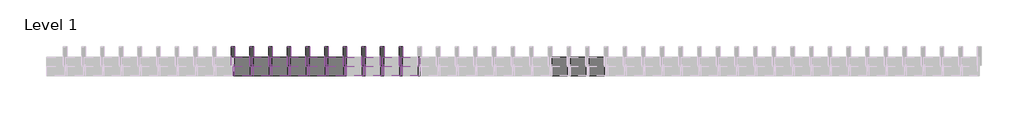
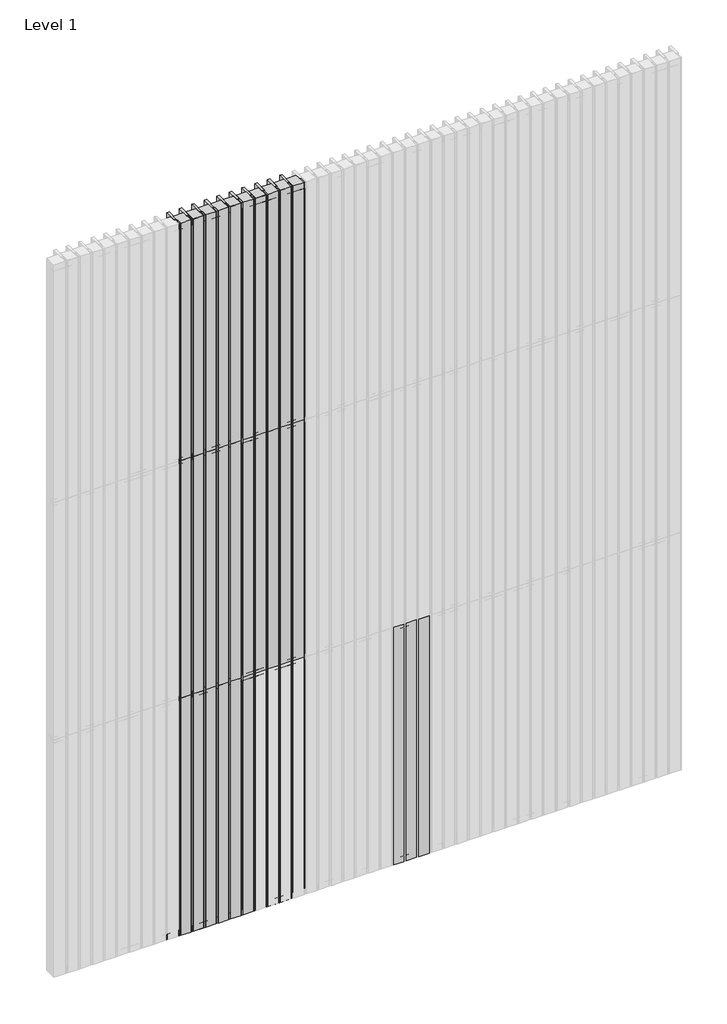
# One storey, part 2 of 6: 70 members, 59 plates.
"""IFC4 building model written with IfcOpenShell, lengths in millimetres."""

from ifc_helpers import new_model, si_unit, origin, place, context, project, spatial, transform, mapped, element, save
from components import rectangular_mullion_cddbc660, rectangular_mullion_a3e25429, rectangular_mullion_ae434dd9, rectangular_mullion_30cdfca6, empty_system_panel_empty_5411477d, empty_system_panel_empty_c50988b4, empty_system_panel_empty_3767e820

model = new_model("IFC4")

# Units and contexts
model_context = context("Model", 3, world=origin())
ifc_project = project(units=[si_unit("LENGTHUNIT", "METRE", prefix="MILLI")], contexts=[model_context])

# Site, building, storey
site = spatial("IfcSite", under=ifc_project)
building = spatial("IfcBuilding", under=site)
storey = spatial("IfcBuildingStorey", under=building, Name="Level 1", Elevation=0.0)

# Members
placement = place(None, origin())
rectangular_mullion_shape = rectangular_mullion_cddbc660(model_context)
element("IfcMember", 1, ObjectType="Rectangular Mullion : RSen_21_CWM_support profile 50x50 - left_gen_duco projects", at=placement, inside=storey, context=model_context, shape_type="MappedRepresentation", body=[
    mapped(rectangular_mullion_shape, transform((1900.0, 3000.0, 6000.0), x_axis=(0.0, 0.0, 1.0), y_axis=(0.0, 1.0, 0.0), z_axis=(-1.0, 0.0, 0.0))),
])
element("IfcMember", 2, ObjectType="Rectangular Mullion : RSen_21_CWM_support profile 50x50 - left_gen_duco projects", at=placement, inside=storey, context=model_context, shape_type="MappedRepresentation", body=[
    mapped(rectangular_mullion_shape, transform((1800.0, 3000.0, 6000.0), x_axis=(0.0, 0.0, 1.0), y_axis=(0.0, 1.0, 0.0), z_axis=(-1.0, 0.0, 0.0))),
])
element("IfcMember", 3, ObjectType="Rectangular Mullion : RSen_21_CWM_support profile 50x50 - left_gen_duco projects", at=placement, inside=storey, context=model_context, shape_type="MappedRepresentation", body=[
    mapped(rectangular_mullion_shape, transform((1700.0, 3000.0, 6000.0), x_axis=(0.0, 0.0, 1.0), y_axis=(0.0, 1.0, 0.0), z_axis=(-1.0, 0.0, 0.0))),
])
element("IfcMember", 4, ObjectType="Rectangular Mullion : RSen_21_CWM_support profile 50x50 - left_gen_duco projects", at=placement, inside=storey, context=model_context, shape_type="MappedRepresentation", body=[
    mapped(rectangular_mullion_shape, transform((1600.0, 3000.0, 6000.0), x_axis=(0.0, 0.0, 1.0), y_axis=(0.0, 1.0, 0.0), z_axis=(-1.0, 0.0, 0.0))),
])
element("IfcMember", 5, ObjectType="Rectangular Mullion : RSen_21_CWM_support profile 50x50 - left_gen_duco projects", at=placement, inside=storey, context=model_context, shape_type="MappedRepresentation", body=[
    mapped(rectangular_mullion_shape, transform((1500.0, 3000.0, 6000.0), x_axis=(0.0, 0.0, 1.0), y_axis=(0.0, 1.0, 0.0), z_axis=(-1.0, 0.0, 0.0))),
])
element("IfcMember", 6, ObjectType="Rectangular Mullion : RSen_21_CWM_support profile 50x50 - left_gen_duco projects", at=placement, inside=storey, context=model_context, shape_type="MappedRepresentation", body=[
    mapped(rectangular_mullion_shape, transform((1400.0, 3000.0, 6000.0), x_axis=(0.0, 0.0, 1.0), y_axis=(0.0, 1.0, 0.0), z_axis=(-1.0, 0.0, 0.0))),
])
element("IfcMember", 7, ObjectType="Rectangular Mullion : RSen_21_CWM_support profile 50x50 - left_gen_duco projects", at=placement, inside=storey, context=model_context, shape_type="MappedRepresentation", body=[
    mapped(rectangular_mullion_shape, transform((1300.0, 3000.0, 6000.0), x_axis=(0.0, 0.0, 1.0), y_axis=(0.0, 1.0, 0.0), z_axis=(-1.0, 0.0, 0.0))),
])
element("IfcMember", 8, ObjectType="Rectangular Mullion : RSen_21_CWM_support profile 50x50 - left_gen_duco projects", at=placement, inside=storey, context=model_context, shape_type="MappedRepresentation", body=[
    mapped(rectangular_mullion_shape, transform((1200.0, 3000.0, 6000.0), x_axis=(0.0, 0.0, 1.0), y_axis=(0.0, 1.0, 0.0), z_axis=(-1.0, 0.0, 0.0))),
])
element("IfcMember", 9, ObjectType="Rectangular Mullion : RSen_21_CWM_support profile 50x50 - left_gen_duco projects", at=placement, inside=storey, context=model_context, shape_type="MappedRepresentation", body=[
    mapped(rectangular_mullion_shape, transform((1100.0, 3000.0, 6000.0), x_axis=(0.0, 0.0, 1.0), y_axis=(0.0, 1.0, 0.0), z_axis=(-1.0, 0.0, 0.0))),
])
element("IfcMember", 10, ObjectType="Rectangular Mullion : RSen_21_CWM_support profile 50x50 - left_gen_duco projects", at=placement, inside=storey, context=model_context, shape_type="MappedRepresentation", body=[
    mapped(rectangular_mullion_shape, transform((1000.0, 3000.0, 6000.0), x_axis=(0.0, 0.0, 1.0), y_axis=(0.0, 1.0, 0.0), z_axis=(-1.0, 0.0, 0.0))),
])
rectangular_mullion_2_shape = rectangular_mullion_a3e25429(model_context)
element("IfcMember", 11, ObjectType="Rectangular Mullion : RSen_21_CWM_support profile 50x50 - right_gen_duco projects", at=placement, inside=storey, context=model_context, shape_type="MappedRepresentation", body=[
    mapped(rectangular_mullion_2_shape, transform((1900.0, 3000.0, 0.0), x_axis=(0.0, 0.0, -1.0), y_axis=(0.0, 1.0, 0.0), z_axis=(1.0, 0.0, 0.0))),
])
element("IfcMember", 12, ObjectType="Rectangular Mullion : RSen_21_CWM_support profile 50x50 - right_gen_duco projects", at=placement, inside=storey, context=model_context, shape_type="MappedRepresentation", body=[
    mapped(rectangular_mullion_2_shape, transform((1800.0, 3000.0, 0.0), x_axis=(0.0, 0.0, -1.0), y_axis=(0.0, 1.0, 0.0), z_axis=(1.0, 0.0, 0.0))),
])
element("IfcMember", 13, ObjectType="Rectangular Mullion : RSen_21_CWM_support profile 50x50 - right_gen_duco projects", at=placement, inside=storey, context=model_context, shape_type="MappedRepresentation", body=[
    mapped(rectangular_mullion_2_shape, transform((1700.0, 3000.0, 0.0), x_axis=(0.0, 0.0, -1.0), y_axis=(0.0, 1.0, 0.0), z_axis=(1.0, 0.0, 0.0))),
])
element("IfcMember", 14, ObjectType="Rectangular Mullion : RSen_21_CWM_support profile 50x50 - right_gen_duco projects", at=placement, inside=storey, context=model_context, shape_type="MappedRepresentation", body=[
    mapped(rectangular_mullion_2_shape, transform((1600.0, 3000.0, 0.0), x_axis=(0.0, 0.0, -1.0), y_axis=(0.0, 1.0, 0.0), z_axis=(1.0, 0.0, 0.0))),
])
element("IfcMember", 15, ObjectType="Rectangular Mullion : RSen_21_CWM_support profile 50x50 - right_gen_duco projects", at=placement, inside=storey, context=model_context, shape_type="MappedRepresentation", body=[
    mapped(rectangular_mullion_2_shape, transform((1500.0, 3000.0, 0.0), x_axis=(0.0, 0.0, -1.0), y_axis=(0.0, 1.0, 0.0), z_axis=(1.0, 0.0, 0.0))),
])
element("IfcMember", 16, ObjectType="Rectangular Mullion : RSen_21_CWM_support profile 50x50 - right_gen_duco projects", at=placement, inside=storey, context=model_context, shape_type="MappedRepresentation", body=[
    mapped(rectangular_mullion_2_shape, transform((1400.0, 3000.0, 0.0), x_axis=(0.0, 0.0, -1.0), y_axis=(0.0, 1.0, 0.0), z_axis=(1.0, 0.0, 0.0))),
])
element("IfcMember", 17, ObjectType="Rectangular Mullion : RSen_21_CWM_support profile 50x50 - right_gen_duco projects", at=placement, inside=storey, context=model_context, shape_type="MappedRepresentation", body=[
    mapped(rectangular_mullion_2_shape, transform((1300.0, 3000.0, 0.0), x_axis=(0.0, 0.0, -1.0), y_axis=(0.0, 1.0, 0.0), z_axis=(1.0, 0.0, 0.0))),
])
element("IfcMember", 18, ObjectType="Rectangular Mullion : RSen_21_CWM_support profile 50x50 - right_gen_duco projects", at=placement, inside=storey, context=model_context, shape_type="MappedRepresentation", body=[
    mapped(rectangular_mullion_2_shape, transform((1200.0, 3000.0, 0.0), x_axis=(0.0, 0.0, -1.0), y_axis=(0.0, 1.0, 0.0), z_axis=(1.0, 0.0, 0.0))),
])
element("IfcMember", 19, ObjectType="Rectangular Mullion : RSen_21_CWM_support profile 50x50 - right_gen_duco projects", at=placement, inside=storey, context=model_context, shape_type="MappedRepresentation", body=[
    mapped(rectangular_mullion_2_shape, transform((1100.0, 3000.0, 0.0), x_axis=(0.0, 0.0, -1.0), y_axis=(0.0, 1.0, 0.0), z_axis=(1.0, 0.0, 0.0))),
])
element("IfcMember", 20, ObjectType="Rectangular Mullion : RSen_21_CWM_support profile 50x50 - right_gen_duco projects", at=placement, inside=storey, context=model_context, shape_type="MappedRepresentation", body=[
    mapped(rectangular_mullion_2_shape, transform((1000.0, 3000.0, 0.0), x_axis=(0.0, 0.0, -1.0), y_axis=(0.0, 1.0, 0.0), z_axis=(1.0, 0.0, 0.0))),
])
rectangular_mullion_3_shape = rectangular_mullion_ae434dd9(model_context)
element("IfcMember", 21, ObjectType="Rectangular Mullion : RSen_21_CWM_support profile 50x50_gen_duco projects", at=placement, inside=storey, context=model_context, shape_type="MappedRepresentation", body=[
    mapped(rectangular_mullion_3_shape, transform((1900.0, 3000.0, 2000.0), x_axis=(0.0, 0.0, 1.0), y_axis=(0.0, 1.0, 0.0), z_axis=(-1.0, 0.0, 0.0))),
])
element("IfcMember", 22, ObjectType="Rectangular Mullion : RSen_21_CWM_support profile 50x50_gen_duco projects", at=placement, inside=storey, context=model_context, shape_type="MappedRepresentation", body=[
    mapped(rectangular_mullion_3_shape, transform((1800.0, 3000.0, 2000.0), x_axis=(0.0, 0.0, 1.0), y_axis=(0.0, 1.0, 0.0), z_axis=(-1.0, 0.0, 0.0))),
])
element("IfcMember", 23, ObjectType="Rectangular Mullion : RSen_21_CWM_support profile 50x50_gen_duco projects", at=placement, inside=storey, context=model_context, shape_type="MappedRepresentation", body=[
    mapped(rectangular_mullion_3_shape, transform((1700.0, 3000.0, 2000.0), x_axis=(0.0, 0.0, 1.0), y_axis=(0.0, 1.0, 0.0), z_axis=(-1.0, 0.0, 0.0))),
])
element("IfcMember", 24, ObjectType="Rectangular Mullion : RSen_21_CWM_support profile 50x50_gen_duco projects", at=placement, inside=storey, context=model_context, shape_type="MappedRepresentation", body=[
    mapped(rectangular_mullion_3_shape, transform((1600.0, 3000.0, 2000.0), x_axis=(0.0, 0.0, 1.0), y_axis=(0.0, 1.0, 0.0), z_axis=(-1.0, 0.0, 0.0))),
])
element("IfcMember", 25, ObjectType="Rectangular Mullion : RSen_21_CWM_support profile 50x50_gen_duco projects", at=placement, inside=storey, context=model_context, shape_type="MappedRepresentation", body=[
    mapped(rectangular_mullion_3_shape, transform((1500.0, 3000.0, 2000.0), x_axis=(0.0, 0.0, 1.0), y_axis=(0.0, 1.0, 0.0), z_axis=(-1.0, 0.0, 0.0))),
])
element("IfcMember", 26, ObjectType="Rectangular Mullion : RSen_21_CWM_support profile 50x50_gen_duco projects", at=placement, inside=storey, context=model_context, shape_type="MappedRepresentation", body=[
    mapped(rectangular_mullion_3_shape, transform((1400.0, 3000.0, 2000.0), x_axis=(0.0, 0.0, 1.0), y_axis=(0.0, 1.0, 0.0), z_axis=(-1.0, 0.0, 0.0))),
])
element("IfcMember", 27, ObjectType="Rectangular Mullion : RSen_21_CWM_support profile 50x50_gen_duco projects", at=placement, inside=storey, context=model_context, shape_type="MappedRepresentation", body=[
    mapped(rectangular_mullion_3_shape, transform((1300.0, 3000.0, 2000.0), x_axis=(0.0, 0.0, 1.0), y_axis=(0.0, 1.0, 0.0), z_axis=(-1.0, 0.0, 0.0))),
])
element("IfcMember", 28, ObjectType="Rectangular Mullion : RSen_21_CWM_support profile 50x50_gen_duco projects", at=placement, inside=storey, context=model_context, shape_type="MappedRepresentation", body=[
    mapped(rectangular_mullion_3_shape, transform((1200.0, 3000.0, 2000.0), x_axis=(0.0, 0.0, 1.0), y_axis=(0.0, 1.0, 0.0), z_axis=(-1.0, 0.0, 0.0))),
])
element("IfcMember", 29, ObjectType="Rectangular Mullion : RSen_21_CWM_support profile 50x50_gen_duco projects", at=placement, inside=storey, context=model_context, shape_type="MappedRepresentation", body=[
    mapped(rectangular_mullion_3_shape, transform((1100.0, 3000.0, 2000.0), x_axis=(0.0, 0.0, 1.0), y_axis=(0.0, 1.0, 0.0), z_axis=(-1.0, 0.0, 0.0))),
])
element("IfcMember", 30, ObjectType="Rectangular Mullion : RSen_21_CWM_support profile 50x50_gen_duco projects", at=placement, inside=storey, context=model_context, shape_type="MappedRepresentation", body=[
    mapped(rectangular_mullion_3_shape, transform((1000.0, 3000.0, 2000.0), x_axis=(0.0, 0.0, 1.0), y_axis=(0.0, 1.0, 0.0), z_axis=(-1.0, 0.0, 0.0))),
])
element("IfcMember", 31, ObjectType="Rectangular Mullion : RSen_21_CWM_support profile 50x50_gen_duco projects", at=placement, inside=storey, context=model_context, shape_type="MappedRepresentation", body=[
    mapped(rectangular_mullion_3_shape, transform((1900.0, 3000.0, 4000.0), x_axis=(0.0, 0.0, 1.0), y_axis=(0.0, 1.0, 0.0), z_axis=(-1.0, 0.0, 0.0))),
])
element("IfcMember", 32, ObjectType="Rectangular Mullion : RSen_21_CWM_support profile 50x50_gen_duco projects", at=placement, inside=storey, context=model_context, shape_type="MappedRepresentation", body=[
    mapped(rectangular_mullion_3_shape, transform((1800.0, 3000.0, 4000.0), x_axis=(0.0, 0.0, 1.0), y_axis=(0.0, 1.0, 0.0), z_axis=(-1.0, 0.0, 0.0))),
])
element("IfcMember", 33, ObjectType="Rectangular Mullion : RSen_21_CWM_support profile 50x50_gen_duco projects", at=placement, inside=storey, context=model_context, shape_type="MappedRepresentation", body=[
    mapped(rectangular_mullion_3_shape, transform((1700.0, 3000.0, 4000.0), x_axis=(0.0, 0.0, 1.0), y_axis=(0.0, 1.0, 0.0), z_axis=(-1.0, 0.0, 0.0))),
])
element("IfcMember", 34, ObjectType="Rectangular Mullion : RSen_21_CWM_support profile 50x50_gen_duco projects", at=placement, inside=storey, context=model_context, shape_type="MappedRepresentation", body=[
    mapped(rectangular_mullion_3_shape, transform((1600.0, 3000.0, 4000.0), x_axis=(0.0, 0.0, 1.0), y_axis=(0.0, 1.0, 0.0), z_axis=(-1.0, 0.0, 0.0))),
])
element("IfcMember", 35, ObjectType="Rectangular Mullion : RSen_21_CWM_support profile 50x50_gen_duco projects", at=placement, inside=storey, context=model_context, shape_type="MappedRepresentation", body=[
    mapped(rectangular_mullion_3_shape, transform((1500.0, 3000.0, 4000.0), x_axis=(0.0, 0.0, 1.0), y_axis=(0.0, 1.0, 0.0), z_axis=(-1.0, 0.0, 0.0))),
])
element("IfcMember", 36, ObjectType="Rectangular Mullion : RSen_21_CWM_support profile 50x50_gen_duco projects", at=placement, inside=storey, context=model_context, shape_type="MappedRepresentation", body=[
    mapped(rectangular_mullion_3_shape, transform((1400.0, 3000.0, 4000.0), x_axis=(0.0, 0.0, 1.0), y_axis=(0.0, 1.0, 0.0), z_axis=(-1.0, 0.0, 0.0))),
])
element("IfcMember", 37, ObjectType="Rectangular Mullion : RSen_21_CWM_support profile 50x50_gen_duco projects", at=placement, inside=storey, context=model_context, shape_type="MappedRepresentation", body=[
    mapped(rectangular_mullion_3_shape, transform((1300.0, 3000.0, 4000.0), x_axis=(0.0, 0.0, 1.0), y_axis=(0.0, 1.0, 0.0), z_axis=(-1.0, 0.0, 0.0))),
])
element("IfcMember", 38, ObjectType="Rectangular Mullion : RSen_21_CWM_support profile 50x50_gen_duco projects", at=placement, inside=storey, context=model_context, shape_type="MappedRepresentation", body=[
    mapped(rectangular_mullion_3_shape, transform((1200.0, 3000.0, 4000.0), x_axis=(0.0, 0.0, 1.0), y_axis=(0.0, 1.0, 0.0), z_axis=(-1.0, 0.0, 0.0))),
])
element("IfcMember", 39, ObjectType="Rectangular Mullion : RSen_21_CWM_support profile 50x50_gen_duco projects", at=placement, inside=storey, context=model_context, shape_type="MappedRepresentation", body=[
    mapped(rectangular_mullion_3_shape, transform((1100.0, 3000.0, 4000.0), x_axis=(0.0, 0.0, 1.0), y_axis=(0.0, 1.0, 0.0), z_axis=(-1.0, 0.0, 0.0))),
])
element("IfcMember", 40, ObjectType="Rectangular Mullion : RSen_21_CWM_support profile 50x50_gen_duco projects", at=placement, inside=storey, context=model_context, shape_type="MappedRepresentation", body=[
    mapped(rectangular_mullion_3_shape, transform((1000.0, 3000.0, 4000.0), x_axis=(0.0, 0.0, 1.0), y_axis=(0.0, 1.0, 0.0), z_axis=(-1.0, 0.0, 0.0))),
])
rectangular_mullion_4_shape = rectangular_mullion_30cdfca6(model_context)
element("IfcMember", 41, ObjectType="Rectangular Mullion : RSen_21_CWM_blade - cubic 100 - 0°_gen_duco projects", at=placement, inside=storey, context=model_context, shape_type="MappedRepresentation", body=[
    mapped(rectangular_mullion_4_shape, transform((1900.0, 3000.0, 0.0), x_axis=(-1.0, 0.0, 0.0), y_axis=(0.0, 1.0, 0.0), z_axis=(0.0, 0.0, -1.0))),
])
element("IfcMember", 42, ObjectType="Rectangular Mullion : RSen_21_CWM_blade - cubic 100 - 0°_gen_duco projects", at=placement, inside=storey, context=model_context, shape_type="MappedRepresentation", body=[
    mapped(rectangular_mullion_4_shape, transform((1800.0, 3000.0, 0.0), x_axis=(-1.0, 0.0, 0.0), y_axis=(0.0, 1.0, 0.0), z_axis=(0.0, 0.0, -1.0))),
])
element("IfcMember", 43, ObjectType="Rectangular Mullion : RSen_21_CWM_blade - cubic 100 - 0°_gen_duco projects", at=placement, inside=storey, context=model_context, shape_type="MappedRepresentation", body=[
    mapped(rectangular_mullion_4_shape, transform((1700.0, 3000.0, 0.0), x_axis=(-1.0, 0.0, 0.0), y_axis=(0.0, 1.0, 0.0), z_axis=(0.0, 0.0, -1.0))),
])
element("IfcMember", 44, ObjectType="Rectangular Mullion : RSen_21_CWM_blade - cubic 100 - 0°_gen_duco projects", at=placement, inside=storey, context=model_context, shape_type="MappedRepresentation", body=[
    mapped(rectangular_mullion_4_shape, transform((1600.0, 3000.0, 0.0), x_axis=(-1.0, 0.0, 0.0), y_axis=(0.0, 1.0, 0.0), z_axis=(0.0, 0.0, -1.0))),
])
element("IfcMember", 45, ObjectType="Rectangular Mullion : RSen_21_CWM_blade - cubic 100 - 0°_gen_duco projects", at=placement, inside=storey, context=model_context, shape_type="MappedRepresentation", body=[
    mapped(rectangular_mullion_4_shape, transform((1500.0, 3000.0, 0.0), x_axis=(-1.0, 0.0, 0.0), y_axis=(0.0, 1.0, 0.0), z_axis=(0.0, 0.0, -1.0))),
])
element("IfcMember", 46, ObjectType="Rectangular Mullion : RSen_21_CWM_blade - cubic 100 - 0°_gen_duco projects", at=placement, inside=storey, context=model_context, shape_type="MappedRepresentation", body=[
    mapped(rectangular_mullion_4_shape, transform((1400.0, 3000.0, 0.0), x_axis=(-1.0, 0.0, 0.0), y_axis=(0.0, 1.0, 0.0), z_axis=(0.0, 0.0, -1.0))),
])
element("IfcMember", 47, ObjectType="Rectangular Mullion : RSen_21_CWM_blade - cubic 100 - 0°_gen_duco projects", at=placement, inside=storey, context=model_context, shape_type="MappedRepresentation", body=[
    mapped(rectangular_mullion_4_shape, transform((1300.0, 3000.0, 0.0), x_axis=(-1.0, 0.0, 0.0), y_axis=(0.0, 1.0, 0.0), z_axis=(0.0, 0.0, -1.0))),
])
element("IfcMember", 48, ObjectType="Rectangular Mullion : RSen_21_CWM_blade - cubic 100 - 0°_gen_duco projects", at=placement, inside=storey, context=model_context, shape_type="MappedRepresentation", body=[
    mapped(rectangular_mullion_4_shape, transform((1200.0, 3000.0, 0.0), x_axis=(-1.0, 0.0, 0.0), y_axis=(0.0, 1.0, 0.0), z_axis=(0.0, 0.0, -1.0))),
])
element("IfcMember", 49, ObjectType="Rectangular Mullion : RSen_21_CWM_blade - cubic 100 - 0°_gen_duco projects", at=placement, inside=storey, context=model_context, shape_type="MappedRepresentation", body=[
    mapped(rectangular_mullion_4_shape, transform((1100.0, 3000.0, 0.0), x_axis=(-1.0, 0.0, 0.0), y_axis=(0.0, 1.0, 0.0), z_axis=(0.0, 0.0, -1.0))),
])
element("IfcMember", 50, ObjectType="Rectangular Mullion : RSen_21_CWM_blade - cubic 100 - 0°_gen_duco projects", at=placement, inside=storey, context=model_context, shape_type="MappedRepresentation", body=[
    mapped(rectangular_mullion_4_shape, transform((1000.0, 3000.0, 0.0), x_axis=(-1.0, 0.0, 0.0), y_axis=(0.0, 1.0, 0.0), z_axis=(0.0, 0.0, -1.0))),
])
element("IfcMember", 51, ObjectType="Rectangular Mullion : RSen_21_CWM_blade - cubic 100 - 0°_gen_duco projects", at=placement, inside=storey, context=model_context, shape_type="MappedRepresentation", body=[
    mapped(rectangular_mullion_4_shape, transform((1900.0, 3000.0, 2000.0), x_axis=(-1.0, 0.0, 0.0), y_axis=(0.0, 1.0, 0.0), z_axis=(0.0, 0.0, -1.0))),
])
element("IfcMember", 52, ObjectType="Rectangular Mullion : RSen_21_CWM_blade - cubic 100 - 0°_gen_duco projects", at=placement, inside=storey, context=model_context, shape_type="MappedRepresentation", body=[
    mapped(rectangular_mullion_4_shape, transform((1800.0, 3000.0, 2000.0), x_axis=(-1.0, 0.0, 0.0), y_axis=(0.0, 1.0, 0.0), z_axis=(0.0, 0.0, -1.0))),
])
element("IfcMember", 53, ObjectType="Rectangular Mullion : RSen_21_CWM_blade - cubic 100 - 0°_gen_duco projects", at=placement, inside=storey, context=model_context, shape_type="MappedRepresentation", body=[
    mapped(rectangular_mullion_4_shape, transform((1700.0, 3000.0, 2000.0), x_axis=(-1.0, 0.0, 0.0), y_axis=(0.0, 1.0, 0.0), z_axis=(0.0, 0.0, -1.0))),
])
element("IfcMember", 54, ObjectType="Rectangular Mullion : RSen_21_CWM_blade - cubic 100 - 0°_gen_duco projects", at=placement, inside=storey, context=model_context, shape_type="MappedRepresentation", body=[
    mapped(rectangular_mullion_4_shape, transform((1600.0, 3000.0, 2000.0), x_axis=(-1.0, 0.0, 0.0), y_axis=(0.0, 1.0, 0.0), z_axis=(0.0, 0.0, -1.0))),
])
element("IfcMember", 55, ObjectType="Rectangular Mullion : RSen_21_CWM_blade - cubic 100 - 0°_gen_duco projects", at=placement, inside=storey, context=model_context, shape_type="MappedRepresentation", body=[
    mapped(rectangular_mullion_4_shape, transform((1500.0, 3000.0, 2000.0), x_axis=(-1.0, 0.0, 0.0), y_axis=(0.0, 1.0, 0.0), z_axis=(0.0, 0.0, -1.0))),
])
element("IfcMember", 56, ObjectType="Rectangular Mullion : RSen_21_CWM_blade - cubic 100 - 0°_gen_duco projects", at=placement, inside=storey, context=model_context, shape_type="MappedRepresentation", body=[
    mapped(rectangular_mullion_4_shape, transform((1400.0, 3000.0, 2000.0), x_axis=(-1.0, 0.0, 0.0), y_axis=(0.0, 1.0, 0.0), z_axis=(0.0, 0.0, -1.0))),
])
element("IfcMember", 57, ObjectType="Rectangular Mullion : RSen_21_CWM_blade - cubic 100 - 0°_gen_duco projects", at=placement, inside=storey, context=model_context, shape_type="MappedRepresentation", body=[
    mapped(rectangular_mullion_4_shape, transform((1300.0, 3000.0, 2000.0), x_axis=(-1.0, 0.0, 0.0), y_axis=(0.0, 1.0, 0.0), z_axis=(0.0, 0.0, -1.0))),
])
element("IfcMember", 58, ObjectType="Rectangular Mullion : RSen_21_CWM_blade - cubic 100 - 0°_gen_duco projects", at=placement, inside=storey, context=model_context, shape_type="MappedRepresentation", body=[
    mapped(rectangular_mullion_4_shape, transform((1200.0, 3000.0, 2000.0), x_axis=(-1.0, 0.0, 0.0), y_axis=(0.0, 1.0, 0.0), z_axis=(0.0, 0.0, -1.0))),
])
element("IfcMember", 59, ObjectType="Rectangular Mullion : RSen_21_CWM_blade - cubic 100 - 0°_gen_duco projects", at=placement, inside=storey, context=model_context, shape_type="MappedRepresentation", body=[
    mapped(rectangular_mullion_4_shape, transform((1100.0, 3000.0, 2000.0), x_axis=(-1.0, 0.0, 0.0), y_axis=(0.0, 1.0, 0.0), z_axis=(0.0, 0.0, -1.0))),
])
element("IfcMember", 60, ObjectType="Rectangular Mullion : RSen_21_CWM_blade - cubic 100 - 0°_gen_duco projects", at=placement, inside=storey, context=model_context, shape_type="MappedRepresentation", body=[
    mapped(rectangular_mullion_4_shape, transform((1000.0, 3000.0, 2000.0), x_axis=(-1.0, 0.0, 0.0), y_axis=(0.0, 1.0, 0.0), z_axis=(0.0, 0.0, -1.0))),
])
element("IfcMember", 61, ObjectType="Rectangular Mullion : RSen_21_CWM_blade - cubic 100 - 0°_gen_duco projects", at=placement, inside=storey, context=model_context, shape_type="MappedRepresentation", body=[
    mapped(rectangular_mullion_4_shape, transform((1900.0, 3000.0, 4000.0), x_axis=(-1.0, 0.0, 0.0), y_axis=(0.0, 1.0, 0.0), z_axis=(0.0, 0.0, -1.0))),
])
element("IfcMember", 62, ObjectType="Rectangular Mullion : RSen_21_CWM_blade - cubic 100 - 0°_gen_duco projects", at=placement, inside=storey, context=model_context, shape_type="MappedRepresentation", body=[
    mapped(rectangular_mullion_4_shape, transform((1800.0, 3000.0, 4000.0), x_axis=(-1.0, 0.0, 0.0), y_axis=(0.0, 1.0, 0.0), z_axis=(0.0, 0.0, -1.0))),
])
element("IfcMember", 63, ObjectType="Rectangular Mullion : RSen_21_CWM_blade - cubic 100 - 0°_gen_duco projects", at=placement, inside=storey, context=model_context, shape_type="MappedRepresentation", body=[
    mapped(rectangular_mullion_4_shape, transform((1700.0, 3000.0, 4000.0), x_axis=(-1.0, 0.0, 0.0), y_axis=(0.0, 1.0, 0.0), z_axis=(0.0, 0.0, -1.0))),
])
element("IfcMember", 64, ObjectType="Rectangular Mullion : RSen_21_CWM_blade - cubic 100 - 0°_gen_duco projects", at=placement, inside=storey, context=model_context, shape_type="MappedRepresentation", body=[
    mapped(rectangular_mullion_4_shape, transform((1600.0, 3000.0, 4000.0), x_axis=(-1.0, 0.0, 0.0), y_axis=(0.0, 1.0, 0.0), z_axis=(0.0, 0.0, -1.0))),
])
element("IfcMember", 65, ObjectType="Rectangular Mullion : RSen_21_CWM_blade - cubic 100 - 0°_gen_duco projects", at=placement, inside=storey, context=model_context, shape_type="MappedRepresentation", body=[
    mapped(rectangular_mullion_4_shape, transform((1500.0, 3000.0, 4000.0), x_axis=(-1.0, 0.0, 0.0), y_axis=(0.0, 1.0, 0.0), z_axis=(0.0, 0.0, -1.0))),
])
element("IfcMember", 66, ObjectType="Rectangular Mullion : RSen_21_CWM_blade - cubic 100 - 0°_gen_duco projects", at=placement, inside=storey, context=model_context, shape_type="MappedRepresentation", body=[
    mapped(rectangular_mullion_4_shape, transform((1400.0, 3000.0, 4000.0), x_axis=(-1.0, 0.0, 0.0), y_axis=(0.0, 1.0, 0.0), z_axis=(0.0, 0.0, -1.0))),
])
element("IfcMember", 67, ObjectType="Rectangular Mullion : RSen_21_CWM_blade - cubic 100 - 0°_gen_duco projects", at=placement, inside=storey, context=model_context, shape_type="MappedRepresentation", body=[
    mapped(rectangular_mullion_4_shape, transform((1300.0, 3000.0, 4000.0), x_axis=(-1.0, 0.0, 0.0), y_axis=(0.0, 1.0, 0.0), z_axis=(0.0, 0.0, -1.0))),
])
element("IfcMember", 68, ObjectType="Rectangular Mullion : RSen_21_CWM_blade - cubic 100 - 0°_gen_duco projects", at=placement, inside=storey, context=model_context, shape_type="MappedRepresentation", body=[
    mapped(rectangular_mullion_4_shape, transform((1200.0, 3000.0, 4000.0), x_axis=(-1.0, 0.0, 0.0), y_axis=(0.0, 1.0, 0.0), z_axis=(0.0, 0.0, -1.0))),
])
element("IfcMember", 69, ObjectType="Rectangular Mullion : RSen_21_CWM_blade - cubic 100 - 0°_gen_duco projects", at=placement, inside=storey, context=model_context, shape_type="MappedRepresentation", body=[
    mapped(rectangular_mullion_4_shape, transform((1100.0, 3000.0, 4000.0), x_axis=(-1.0, 0.0, 0.0), y_axis=(0.0, 1.0, 0.0), z_axis=(0.0, 0.0, -1.0))),
])
element("IfcMember", 70, ObjectType="Rectangular Mullion : RSen_21_CWM_blade - cubic 100 - 0°_gen_duco projects", at=placement, inside=storey, context=model_context, shape_type="MappedRepresentation", body=[
    mapped(rectangular_mullion_4_shape, transform((1000.0, 3000.0, 4000.0), x_axis=(-1.0, 0.0, 0.0), y_axis=(0.0, 1.0, 0.0), z_axis=(0.0, 0.0, -1.0))),
])

# Plates
empty_system_panel_empty_shape = empty_system_panel_empty_5411477d(model_context)
element("IfcPlate", 71, ObjectType="Empty System Panel : Empty", at=placement, inside=storey, context=model_context, shape_type="MappedRepresentation", body=[
    mapped(empty_system_panel_empty_shape, transform((1950.0, 3000.0, 50.0), x_axis=(-1.0, 0.0, 0.0), y_axis=(0.0, -1.0, 0.0), z_axis=(0.0, 0.0, 1.0))),
])
element("IfcPlate", 72, ObjectType="Empty System Panel : Empty", at=placement, inside=storey, context=model_context, shape_type="MappedRepresentation", body=[
    mapped(empty_system_panel_empty_shape, transform((1850.0, 3000.0, 50.0), x_axis=(-1.0, 0.0, 0.0), y_axis=(0.0, -1.0, 0.0), z_axis=(0.0, 0.0, 1.0))),
])
element("IfcPlate", 73, ObjectType="Empty System Panel : Empty", at=placement, inside=storey, context=model_context, shape_type="MappedRepresentation", body=[
    mapped(empty_system_panel_empty_shape, transform((1750.0, 3000.0, 50.0), x_axis=(-1.0, 0.0, 0.0), y_axis=(0.0, -1.0, 0.0), z_axis=(0.0, 0.0, 1.0))),
])
element("IfcPlate", 74, ObjectType="Empty System Panel : Empty", at=placement, inside=storey, context=model_context, shape_type="MappedRepresentation", body=[
    mapped(empty_system_panel_empty_shape, transform((1650.0, 3000.0, 50.0), x_axis=(-1.0, 0.0, 0.0), y_axis=(0.0, -1.0, 0.0), z_axis=(0.0, 0.0, 1.0))),
])
element("IfcPlate", 75, ObjectType="Empty System Panel : Empty", at=placement, inside=storey, context=model_context, shape_type="MappedRepresentation", body=[
    mapped(empty_system_panel_empty_shape, transform((1550.0, 3000.0, 50.0), x_axis=(-1.0, 0.0, 0.0), y_axis=(0.0, -1.0, 0.0), z_axis=(0.0, 0.0, 1.0))),
])
element("IfcPlate", 76, ObjectType="Empty System Panel : Empty", at=placement, inside=storey, context=model_context, shape_type="MappedRepresentation", body=[
    mapped(empty_system_panel_empty_shape, transform((1450.0, 3000.0, 50.0), x_axis=(-1.0, 0.0, 0.0), y_axis=(0.0, -1.0, 0.0), z_axis=(0.0, 0.0, 1.0))),
])
element("IfcPlate", 77, ObjectType="Empty System Panel : Empty", at=placement, inside=storey, context=model_context, shape_type="MappedRepresentation", body=[
    mapped(empty_system_panel_empty_shape, transform((1350.0, 3000.0, 50.0), x_axis=(-1.0, 0.0, 0.0), y_axis=(0.0, -1.0, 0.0), z_axis=(0.0, 0.0, 1.0))),
])
element("IfcPlate", 78, ObjectType="Empty System Panel : Empty", at=placement, inside=storey, context=model_context, shape_type="MappedRepresentation", body=[
    mapped(empty_system_panel_empty_shape, transform((1250.0, 3000.0, 50.0), x_axis=(-1.0, 0.0, 0.0), y_axis=(0.0, -1.0, 0.0), z_axis=(0.0, 0.0, 1.0))),
])
element("IfcPlate", 79, ObjectType="Empty System Panel : Empty", at=placement, inside=storey, context=model_context, shape_type="MappedRepresentation", body=[
    mapped(empty_system_panel_empty_shape, transform((1150.0, 3000.0, 50.0), x_axis=(-1.0, 0.0, 0.0), y_axis=(0.0, -1.0, 0.0), z_axis=(0.0, 0.0, 1.0))),
])
element("IfcPlate", 80, ObjectType="Empty System Panel : Empty", at=placement, inside=storey, context=model_context, shape_type="MappedRepresentation", body=[
    mapped(empty_system_panel_empty_shape, transform((1050.0, 3000.0, 50.0), x_axis=(-1.0, 0.0, 0.0), y_axis=(0.0, -1.0, 0.0), z_axis=(0.0, 0.0, 1.0))),
])
element("IfcPlate", 81, ObjectType="Empty System Panel : Empty", at=placement, inside=storey, context=model_context, shape_type="MappedRepresentation", body=[
    mapped(empty_system_panel_empty_shape, transform((1950.0, 3000.0, 4025.0), x_axis=(-1.0, 0.0, 0.0), y_axis=(0.0, -1.0, 0.0), z_axis=(0.0, 0.0, 1.0))),
])
element("IfcPlate", 82, ObjectType="Empty System Panel : Empty", at=placement, inside=storey, context=model_context, shape_type="MappedRepresentation", body=[
    mapped(empty_system_panel_empty_shape, transform((1850.0, 3000.0, 4025.0), x_axis=(-1.0, 0.0, 0.0), y_axis=(0.0, -1.0, 0.0), z_axis=(0.0, 0.0, 1.0))),
])
element("IfcPlate", 83, ObjectType="Empty System Panel : Empty", at=placement, inside=storey, context=model_context, shape_type="MappedRepresentation", body=[
    mapped(empty_system_panel_empty_shape, transform((1750.0, 3000.0, 4025.0), x_axis=(-1.0, 0.0, 0.0), y_axis=(0.0, -1.0, 0.0), z_axis=(0.0, 0.0, 1.0))),
])
element("IfcPlate", 84, ObjectType="Empty System Panel : Empty", at=placement, inside=storey, context=model_context, shape_type="MappedRepresentation", body=[
    mapped(empty_system_panel_empty_shape, transform((1650.0, 3000.0, 4025.0), x_axis=(-1.0, 0.0, 0.0), y_axis=(0.0, -1.0, 0.0), z_axis=(0.0, 0.0, 1.0))),
])
element("IfcPlate", 85, ObjectType="Empty System Panel : Empty", at=placement, inside=storey, context=model_context, shape_type="MappedRepresentation", body=[
    mapped(empty_system_panel_empty_shape, transform((1550.0, 3000.0, 4025.0), x_axis=(-1.0, 0.0, 0.0), y_axis=(0.0, -1.0, 0.0), z_axis=(0.0, 0.0, 1.0))),
])
element("IfcPlate", 86, ObjectType="Empty System Panel : Empty", at=placement, inside=storey, context=model_context, shape_type="MappedRepresentation", body=[
    mapped(empty_system_panel_empty_shape, transform((1450.0, 3000.0, 4025.0), x_axis=(-1.0, 0.0, 0.0), y_axis=(0.0, -1.0, 0.0), z_axis=(0.0, 0.0, 1.0))),
])
element("IfcPlate", 87, ObjectType="Empty System Panel : Empty", at=placement, inside=storey, context=model_context, shape_type="MappedRepresentation", body=[
    mapped(empty_system_panel_empty_shape, transform((1350.0, 3000.0, 4025.0), x_axis=(-1.0, 0.0, 0.0), y_axis=(0.0, -1.0, 0.0), z_axis=(0.0, 0.0, 1.0))),
])
element("IfcPlate", 88, ObjectType="Empty System Panel : Empty", at=placement, inside=storey, context=model_context, shape_type="MappedRepresentation", body=[
    mapped(empty_system_panel_empty_shape, transform((1250.0, 3000.0, 4025.0), x_axis=(-1.0, 0.0, 0.0), y_axis=(0.0, -1.0, 0.0), z_axis=(0.0, 0.0, 1.0))),
])
element("IfcPlate", 89, ObjectType="Empty System Panel : Empty", at=placement, inside=storey, context=model_context, shape_type="MappedRepresentation", body=[
    mapped(empty_system_panel_empty_shape, transform((1150.0, 3000.0, 4025.0), x_axis=(-1.0, 0.0, 0.0), y_axis=(0.0, -1.0, 0.0), z_axis=(0.0, 0.0, 1.0))),
])
element("IfcPlate", 90, ObjectType="Empty System Panel : Empty", at=placement, inside=storey, context=model_context, shape_type="MappedRepresentation", body=[
    mapped(empty_system_panel_empty_shape, transform((1050.0, 3000.0, 4025.0), x_axis=(-1.0, 0.0, 0.0), y_axis=(0.0, -1.0, 0.0), z_axis=(0.0, 0.0, 1.0))),
])
empty_system_panel_empty_2_shape = empty_system_panel_empty_c50988b4(model_context)
element("IfcPlate", 91, ObjectType="Empty System Panel : Empty", at=placement, inside=storey, context=model_context, shape_type="MappedRepresentation", body=[
    mapped(empty_system_panel_empty_2_shape, transform((1950.0, 3000.0, 2025.0), x_axis=(-1.0, 0.0, 0.0), y_axis=(0.0, -1.0, 0.0), z_axis=(0.0, 0.0, 1.0))),
])
element("IfcPlate", 92, ObjectType="Empty System Panel : Empty", at=placement, inside=storey, context=model_context, shape_type="MappedRepresentation", body=[
    mapped(empty_system_panel_empty_2_shape, transform((1850.0, 3000.0, 2025.0), x_axis=(-1.0, 0.0, 0.0), y_axis=(0.0, -1.0, 0.0), z_axis=(0.0, 0.0, 1.0))),
])
element("IfcPlate", 93, ObjectType="Empty System Panel : Empty", at=placement, inside=storey, context=model_context, shape_type="MappedRepresentation", body=[
    mapped(empty_system_panel_empty_2_shape, transform((1750.0, 3000.0, 2025.0), x_axis=(-1.0, 0.0, 0.0), y_axis=(0.0, -1.0, 0.0), z_axis=(0.0, 0.0, 1.0))),
])
element("IfcPlate", 94, ObjectType="Empty System Panel : Empty", at=placement, inside=storey, context=model_context, shape_type="MappedRepresentation", body=[
    mapped(empty_system_panel_empty_2_shape, transform((1650.0, 3000.0, 2025.0), x_axis=(-1.0, 0.0, 0.0), y_axis=(0.0, -1.0, 0.0), z_axis=(0.0, 0.0, 1.0))),
])
element("IfcPlate", 95, ObjectType="Empty System Panel : Empty", at=placement, inside=storey, context=model_context, shape_type="MappedRepresentation", body=[
    mapped(empty_system_panel_empty_2_shape, transform((1550.0, 3000.0, 2025.0), x_axis=(-1.0, 0.0, 0.0), y_axis=(0.0, -1.0, 0.0), z_axis=(0.0, 0.0, 1.0))),
])
element("IfcPlate", 96, ObjectType="Empty System Panel : Empty", at=placement, inside=storey, context=model_context, shape_type="MappedRepresentation", body=[
    mapped(empty_system_panel_empty_2_shape, transform((1450.0, 3000.0, 2025.0), x_axis=(-1.0, 0.0, 0.0), y_axis=(0.0, -1.0, 0.0), z_axis=(0.0, 0.0, 1.0))),
])
element("IfcPlate", 97, ObjectType="Empty System Panel : Empty", at=placement, inside=storey, context=model_context, shape_type="MappedRepresentation", body=[
    mapped(empty_system_panel_empty_2_shape, transform((1350.0, 3000.0, 2025.0), x_axis=(-1.0, 0.0, 0.0), y_axis=(0.0, -1.0, 0.0), z_axis=(0.0, 0.0, 1.0))),
])
element("IfcPlate", 98, ObjectType="Empty System Panel : Empty", at=placement, inside=storey, context=model_context, shape_type="MappedRepresentation", body=[
    mapped(empty_system_panel_empty_2_shape, transform((1250.0, 3000.0, 2025.0), x_axis=(-1.0, 0.0, 0.0), y_axis=(0.0, -1.0, 0.0), z_axis=(0.0, 0.0, 1.0))),
])
element("IfcPlate", 99, ObjectType="Empty System Panel : Empty", at=placement, inside=storey, context=model_context, shape_type="MappedRepresentation", body=[
    mapped(empty_system_panel_empty_2_shape, transform((1150.0, 3000.0, 2025.0), x_axis=(-1.0, 0.0, 0.0), y_axis=(0.0, -1.0, 0.0), z_axis=(0.0, 0.0, 1.0))),
])
element("IfcPlate", 100, ObjectType="Empty System Panel : Empty", at=placement, inside=storey, context=model_context, shape_type="MappedRepresentation", body=[
    mapped(empty_system_panel_empty_2_shape, transform((1050.0, 3000.0, 2025.0), x_axis=(-1.0, 0.0, 0.0), y_axis=(0.0, -1.0, 0.0), z_axis=(0.0, 0.0, 1.0))),
])
empty_system_panel_empty_3_shape = empty_system_panel_empty_3767e820(model_context)
element("IfcPlate", 101, ObjectType="Empty System Panel : Empty", at=placement, inside=storey, context=model_context, shape_type="MappedRepresentation", body=[
    mapped(empty_system_panel_empty_3_shape, transform((2950.0, 3000.0, 0.0), x_axis=(-1.0, 0.0, 0.0), y_axis=(0.0, -1.0, 0.0), z_axis=(0.0, 0.0, 1.0))),
])
element("IfcPlate", 102, ObjectType="Empty System Panel : Empty", at=placement, inside=storey, context=model_context, shape_type="MappedRepresentation", body=[
    mapped(empty_system_panel_empty_3_shape, transform((2850.0, 3000.0, 0.0), x_axis=(-1.0, 0.0, 0.0), y_axis=(0.0, -1.0, 0.0), z_axis=(0.0, 0.0, 1.0))),
])
element("IfcPlate", 103, ObjectType="Empty System Panel : Empty", at=placement, inside=storey, context=model_context, shape_type="MappedRepresentation", body=[
    mapped(empty_system_panel_empty_3_shape, transform((2750.0, 3000.0, 0.0), x_axis=(-1.0, 0.0, 0.0), y_axis=(0.0, -1.0, 0.0), z_axis=(0.0, 0.0, 1.0))),
])
element("IfcPlate", 104, ObjectType="Empty System Panel : Empty", at=placement, inside=storey, context=model_context, shape_type="MappedRepresentation", body=[
    mapped(empty_system_panel_empty_3_shape, transform((1550.0, 3000.0, 0.0), x_axis=(-1.0, 0.0, 0.0), y_axis=(0.0, -1.0, 0.0), z_axis=(0.0, 0.0, 1.0))),
])
element("IfcPlate", 105, ObjectType="Empty System Panel : Empty", at=placement, inside=storey, context=model_context, shape_type="MappedRepresentation", body=[
    mapped(empty_system_panel_empty_3_shape, transform((1450.0, 3000.0, 0.0), x_axis=(-1.0, 0.0, 0.0), y_axis=(0.0, -1.0, 0.0), z_axis=(0.0, 0.0, 1.0))),
])
element("IfcPlate", 106, ObjectType="Empty System Panel : Empty", at=placement, inside=storey, context=model_context, shape_type="MappedRepresentation", body=[
    mapped(empty_system_panel_empty_3_shape, transform((1350.0, 3000.0, 0.0), x_axis=(-1.0, 0.0, 0.0), y_axis=(0.0, -1.0, 0.0), z_axis=(0.0, 0.0, 1.0))),
])
element("IfcPlate", 107, ObjectType="Empty System Panel : Empty", at=placement, inside=storey, context=model_context, shape_type="MappedRepresentation", body=[
    mapped(empty_system_panel_empty_3_shape, transform((1250.0, 3000.0, 0.0), x_axis=(-1.0, 0.0, 0.0), y_axis=(0.0, -1.0, 0.0), z_axis=(0.0, 0.0, 1.0))),
])
element("IfcPlate", 108, ObjectType="Empty System Panel : Empty", at=placement, inside=storey, context=model_context, shape_type="MappedRepresentation", body=[
    mapped(empty_system_panel_empty_3_shape, transform((1150.0, 3000.0, 0.0), x_axis=(-1.0, 0.0, 0.0), y_axis=(0.0, -1.0, 0.0), z_axis=(0.0, 0.0, 1.0))),
])
element("IfcPlate", 109, ObjectType="Empty System Panel : Empty", at=placement, inside=storey, context=model_context, shape_type="MappedRepresentation", body=[
    mapped(empty_system_panel_empty_3_shape, transform((1050.0, 3000.0, 0.0), x_axis=(-1.0, 0.0, 0.0), y_axis=(0.0, -1.0, 0.0), z_axis=(0.0, 0.0, 1.0))),
])
element("IfcPlate", 110, ObjectType="Empty System Panel : Empty", at=placement, inside=storey, context=model_context, shape_type="MappedRepresentation", body=[
    mapped(empty_system_panel_empty_3_shape, transform((1950.0, 3000.0, 2000.0), x_axis=(-1.0, 0.0, 0.0), y_axis=(0.0, -1.0, 0.0), z_axis=(0.0, 0.0, 1.0))),
])
element("IfcPlate", 111, ObjectType="Empty System Panel : Empty", at=placement, inside=storey, context=model_context, shape_type="MappedRepresentation", body=[
    mapped(empty_system_panel_empty_3_shape, transform((1850.0, 3000.0, 2000.0), x_axis=(-1.0, 0.0, 0.0), y_axis=(0.0, -1.0, 0.0), z_axis=(0.0, 0.0, 1.0))),
])
element("IfcPlate", 112, ObjectType="Empty System Panel : Empty", at=placement, inside=storey, context=model_context, shape_type="MappedRepresentation", body=[
    mapped(empty_system_panel_empty_3_shape, transform((1750.0, 3000.0, 2000.0), x_axis=(-1.0, 0.0, 0.0), y_axis=(0.0, -1.0, 0.0), z_axis=(0.0, 0.0, 1.0))),
])
element("IfcPlate", 113, ObjectType="Empty System Panel : Empty", at=placement, inside=storey, context=model_context, shape_type="MappedRepresentation", body=[
    mapped(empty_system_panel_empty_3_shape, transform((1650.0, 3000.0, 2000.0), x_axis=(-1.0, 0.0, 0.0), y_axis=(0.0, -1.0, 0.0), z_axis=(0.0, 0.0, 1.0))),
])
element("IfcPlate", 114, ObjectType="Empty System Panel : Empty", at=placement, inside=storey, context=model_context, shape_type="MappedRepresentation", body=[
    mapped(empty_system_panel_empty_3_shape, transform((1550.0, 3000.0, 2000.0), x_axis=(-1.0, 0.0, 0.0), y_axis=(0.0, -1.0, 0.0), z_axis=(0.0, 0.0, 1.0))),
])
element("IfcPlate", 115, ObjectType="Empty System Panel : Empty", at=placement, inside=storey, context=model_context, shape_type="MappedRepresentation", body=[
    mapped(empty_system_panel_empty_3_shape, transform((1450.0, 3000.0, 2000.0), x_axis=(-1.0, 0.0, 0.0), y_axis=(0.0, -1.0, 0.0), z_axis=(0.0, 0.0, 1.0))),
])
element("IfcPlate", 116, ObjectType="Empty System Panel : Empty", at=placement, inside=storey, context=model_context, shape_type="MappedRepresentation", body=[
    mapped(empty_system_panel_empty_3_shape, transform((1350.0, 3000.0, 2000.0), x_axis=(-1.0, 0.0, 0.0), y_axis=(0.0, -1.0, 0.0), z_axis=(0.0, 0.0, 1.0))),
])
element("IfcPlate", 117, ObjectType="Empty System Panel : Empty", at=placement, inside=storey, context=model_context, shape_type="MappedRepresentation", body=[
    mapped(empty_system_panel_empty_3_shape, transform((1250.0, 3000.0, 2000.0), x_axis=(-1.0, 0.0, 0.0), y_axis=(0.0, -1.0, 0.0), z_axis=(0.0, 0.0, 1.0))),
])
element("IfcPlate", 118, ObjectType="Empty System Panel : Empty", at=placement, inside=storey, context=model_context, shape_type="MappedRepresentation", body=[
    mapped(empty_system_panel_empty_3_shape, transform((1150.0, 3000.0, 2000.0), x_axis=(-1.0, 0.0, 0.0), y_axis=(0.0, -1.0, 0.0), z_axis=(0.0, 0.0, 1.0))),
])
element("IfcPlate", 119, ObjectType="Empty System Panel : Empty", at=placement, inside=storey, context=model_context, shape_type="MappedRepresentation", body=[
    mapped(empty_system_panel_empty_3_shape, transform((1050.0, 3000.0, 2000.0), x_axis=(-1.0, 0.0, 0.0), y_axis=(0.0, -1.0, 0.0), z_axis=(0.0, 0.0, 1.0))),
])
element("IfcPlate", 120, ObjectType="Empty System Panel : Empty", at=placement, inside=storey, context=model_context, shape_type="MappedRepresentation", body=[
    mapped(empty_system_panel_empty_3_shape, transform((1950.0, 3000.0, 4000.0), x_axis=(-1.0, 0.0, 0.0), y_axis=(0.0, -1.0, 0.0), z_axis=(0.0, 0.0, 1.0))),
])
element("IfcPlate", 121, ObjectType="Empty System Panel : Empty", at=placement, inside=storey, context=model_context, shape_type="MappedRepresentation", body=[
    mapped(empty_system_panel_empty_3_shape, transform((1850.0, 3000.0, 4000.0), x_axis=(-1.0, 0.0, 0.0), y_axis=(0.0, -1.0, 0.0), z_axis=(0.0, 0.0, 1.0))),
])
element("IfcPlate", 122, ObjectType="Empty System Panel : Empty", at=placement, inside=storey, context=model_context, shape_type="MappedRepresentation", body=[
    mapped(empty_system_panel_empty_3_shape, transform((1750.0, 3000.0, 4000.0), x_axis=(-1.0, 0.0, 0.0), y_axis=(0.0, -1.0, 0.0), z_axis=(0.0, 0.0, 1.0))),
])
element("IfcPlate", 123, ObjectType="Empty System Panel : Empty", at=placement, inside=storey, context=model_context, shape_type="MappedRepresentation", body=[
    mapped(empty_system_panel_empty_3_shape, transform((1650.0, 3000.0, 4000.0), x_axis=(-1.0, 0.0, 0.0), y_axis=(0.0, -1.0, 0.0), z_axis=(0.0, 0.0, 1.0))),
])
element("IfcPlate", 124, ObjectType="Empty System Panel : Empty", at=placement, inside=storey, context=model_context, shape_type="MappedRepresentation", body=[
    mapped(empty_system_panel_empty_3_shape, transform((1550.0, 3000.0, 4000.0), x_axis=(-1.0, 0.0, 0.0), y_axis=(0.0, -1.0, 0.0), z_axis=(0.0, 0.0, 1.0))),
])
element("IfcPlate", 125, ObjectType="Empty System Panel : Empty", at=placement, inside=storey, context=model_context, shape_type="MappedRepresentation", body=[
    mapped(empty_system_panel_empty_3_shape, transform((1450.0, 3000.0, 4000.0), x_axis=(-1.0, 0.0, 0.0), y_axis=(0.0, -1.0, 0.0), z_axis=(0.0, 0.0, 1.0))),
])
element("IfcPlate", 126, ObjectType="Empty System Panel : Empty", at=placement, inside=storey, context=model_context, shape_type="MappedRepresentation", body=[
    mapped(empty_system_panel_empty_3_shape, transform((1350.0, 3000.0, 4000.0), x_axis=(-1.0, 0.0, 0.0), y_axis=(0.0, -1.0, 0.0), z_axis=(0.0, 0.0, 1.0))),
])
element("IfcPlate", 127, ObjectType="Empty System Panel : Empty", at=placement, inside=storey, context=model_context, shape_type="MappedRepresentation", body=[
    mapped(empty_system_panel_empty_3_shape, transform((1250.0, 3000.0, 4000.0), x_axis=(-1.0, 0.0, 0.0), y_axis=(0.0, -1.0, 0.0), z_axis=(0.0, 0.0, 1.0))),
])
element("IfcPlate", 128, ObjectType="Empty System Panel : Empty", at=placement, inside=storey, context=model_context, shape_type="MappedRepresentation", body=[
    mapped(empty_system_panel_empty_3_shape, transform((1150.0, 3000.0, 4000.0), x_axis=(-1.0, 0.0, 0.0), y_axis=(0.0, -1.0, 0.0), z_axis=(0.0, 0.0, 1.0))),
])
element("IfcPlate", 129, ObjectType="Empty System Panel : Empty", at=placement, inside=storey, context=model_context, shape_type="MappedRepresentation", body=[
    mapped(empty_system_panel_empty_3_shape, transform((1050.0, 3000.0, 4000.0), x_axis=(-1.0, 0.0, 0.0), y_axis=(0.0, -1.0, 0.0), z_axis=(0.0, 0.0, 1.0))),
])

save(model, "model.ifc")
